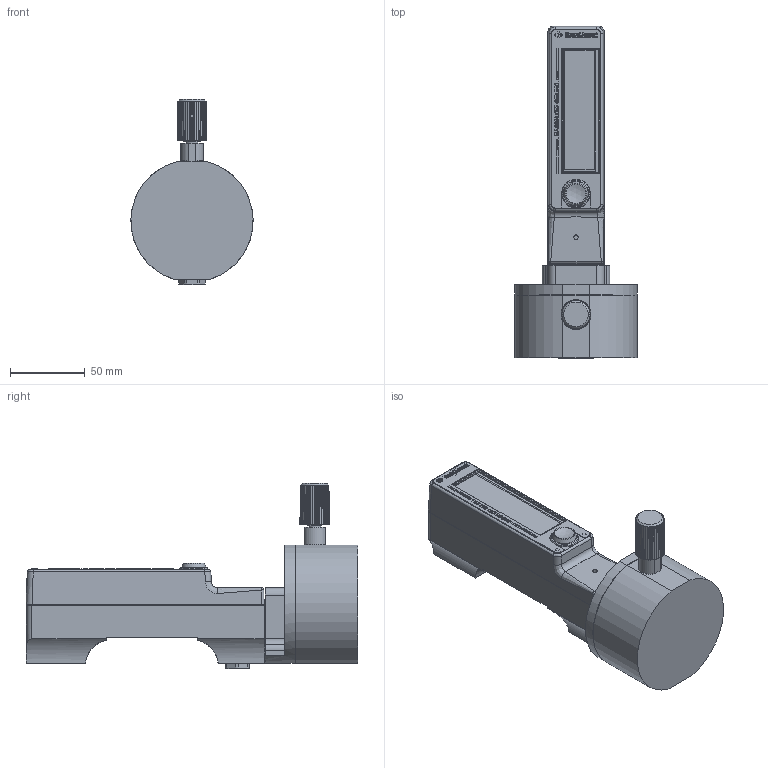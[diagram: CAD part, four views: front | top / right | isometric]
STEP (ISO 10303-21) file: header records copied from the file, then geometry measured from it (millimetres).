
FILE_DESCRIPTION(/* description */ (''),/* implementation_level */ '2;1');
FILE_NAME(/* name */ 'I:\3D\Eng\Marcel\Step-files MASS-VIEW controller\MV-402-404-405.stp',/* time_stamp */ '2015-10-09T14:00:40+02:00',/* author */ ('M-Huiskes'),/* organization */ (''),/* preprocessor_version */ 'ST-DEVELOPER v15.6',/* originating_system */ 'Autodesk Inventor 2015',/* authorisation */ '');
FILE_SCHEMA (('CONFIG_CONTROL_DESIGN'));
Length unit declared in the file: millimetre
Products named in the file (1): Part13
Bounding box: 81.49 x 221.39 x 123.66 mm (x, y, z)
Volume: 566023.5 mm3; surface area: 66688.1 mm2
Topology: 1 solids, 14 shells, 1048 faces, 2713 edges, 1794 vertices
Faces by surface type: plane 681, bspline 153, cylinder 108, cone 91, torus 14, sphere 1
Full cylindrical faces by diameter (mm): 2.616 x1, 2.642 x1, 2.8 x1, 3 x1, 3.6 x1, 4 x3, 4.2 x3, 4.75 x1, 5.2 x1, 5.5 x11, 6 x10, 8.05 x1, 11.3 x1, 11.445 x3, 12.5 x1, 16 x1, 16.891 x1, 19.2 x2, 19.3 x2, 21.2 x3, 36 x1, 76 x1
Entity records: 32921 total; most frequent: CARTESIAN_POINT 8242, ORIENTED_EDGE 5164, DIRECTION 4213, EDGE_CURVE 2582, VERTEX_POINT 1756, LINE 1687, VECTOR 1687, AXIS2_PLACEMENT_3D 1263
